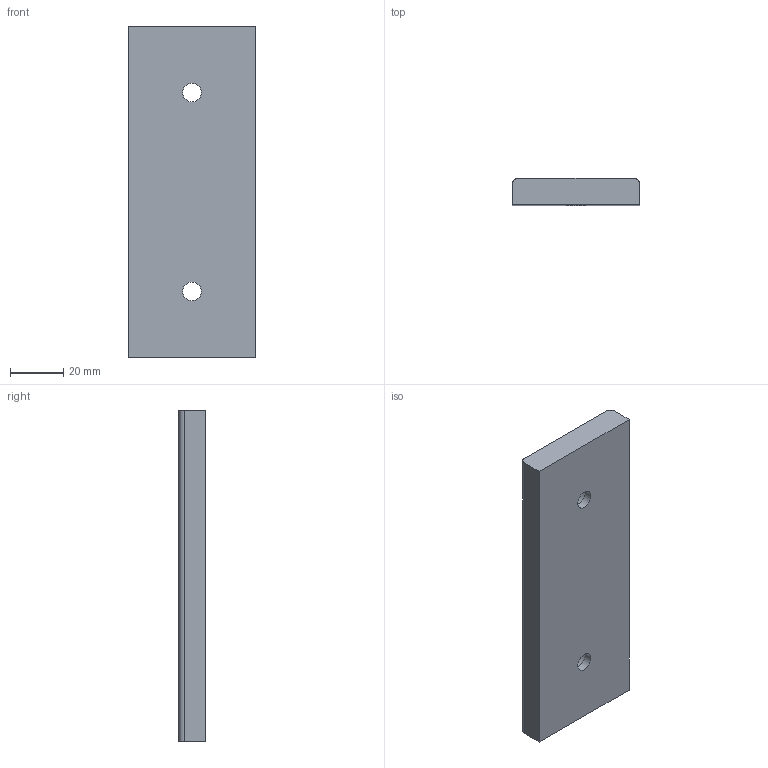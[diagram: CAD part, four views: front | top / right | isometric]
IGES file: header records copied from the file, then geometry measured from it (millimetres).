
Start section: Data from Parasolid IGES Translator 20.0.26, Copyright(c) 2006 Siemens P LM Software. All Rights Reserved.
Global section: file name: G220-01-048-125.igs; native system: By Siemens PLM Incorporated; preprocessor: XPlus GENERIC/IGES 20.0.26; author: Noname; organization: Noname; date: 20190708.082246; units: millimetre
Bounding box: 48 x 10 x 125 mm (x, y, z)
Surface area: 15703.8 mm2 (no closed solid volume)
Topology: 0 solids, 0 shells, 14 faces, 60 edges, 55 vertices
Faces by surface type: extrusion 8, revolution 6
